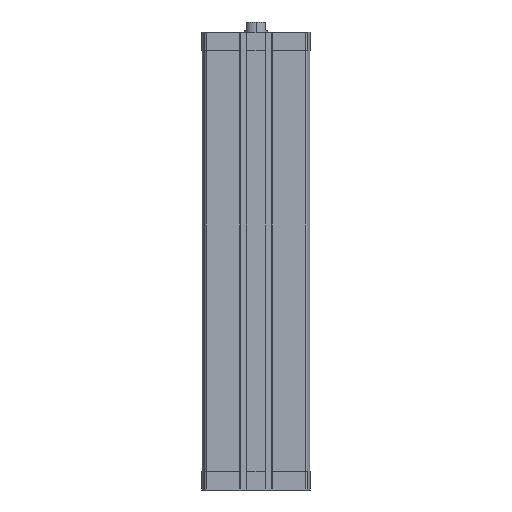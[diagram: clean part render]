
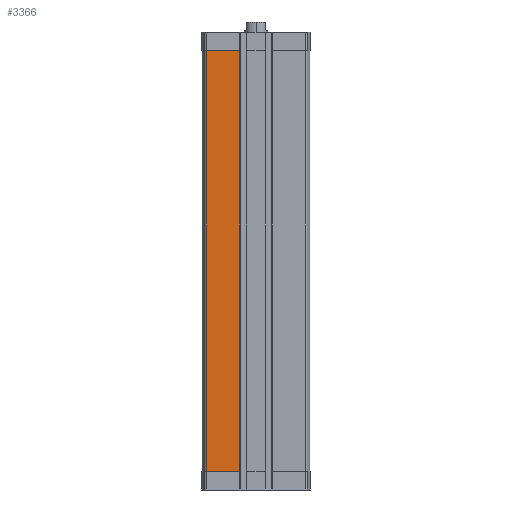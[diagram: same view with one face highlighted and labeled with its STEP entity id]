
A CAD part, left-side view. The second image highlights one B-rep face of the part: STEP entity #3366.
In plain terms, the highlighted planar face has unit normal (-1, 0, 0).
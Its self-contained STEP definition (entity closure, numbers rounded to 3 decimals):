
#73 = VERTEX_POINT ( 'NONE', #8023 ) ;
#1018 = CARTESIAN_POINT ( 'NONE',  ( -47.5, 43.743, -387.5 ) ) ;
#1033 = DIRECTION ( 'NONE',  ( 0., 0., 1. ) ) ;
#1365 = EDGE_CURVE ( 'NONE', #73, #14516, #4497, .T. ) ;
#1908 = DIRECTION ( 'NONE',  ( 0., -1., 0. ) ) ;
#2863 = VERTEX_POINT ( 'NONE', #14275 ) ;
#3306 = ORIENTED_EDGE ( 'NONE', *, *, #6105, .T. ) ;
#3366 = ADVANCED_FACE ( 'NONE', ( #13036 ), #14917, .T. ) ;
#4334 = CARTESIAN_POINT ( 'NONE',  ( -47.5, 0., -16.5 ) ) ;
#4497 = LINE ( 'NONE', #6935, #10857 ) ;
#4766 = EDGE_CURVE ( 'NONE', #10416, #2863, #7836, .T. ) ;
#6041 = EDGE_CURVE ( 'NONE', #2863, #73, #15018, .T. ) ;
#6105 = EDGE_CURVE ( 'NONE', #14516, #10416, #14476, .T. ) ;
#6935 = CARTESIAN_POINT ( 'NONE',  ( -47.5, 14.3, -387.5 ) ) ;
#7807 = VECTOR ( 'NONE', #13780, 1000. ) ;
#7836 = LINE ( 'NONE', #13690, #7807 ) ;
#7985 = ORIENTED_EDGE ( 'NONE', *, *, #4766, .T. ) ;
#7999 = DIRECTION ( 'NONE',  ( -1., 0., 0. ) ) ;
#8023 = CARTESIAN_POINT ( 'NONE',  ( -47.5, 14.3, -387.5 ) ) ;
#8265 = DIRECTION ( 'NONE',  ( 0., 1., 0. ) ) ;
#8606 = CARTESIAN_POINT ( 'NONE',  ( -47.5, 14.3, -16.5 ) ) ;
#8672 = ORIENTED_EDGE ( 'NONE', *, *, #6041, .T. ) ;
#9237 = ORIENTED_EDGE ( 'NONE', *, *, #1365, .T. ) ;
#9391 = CARTESIAN_POINT ( 'NONE',  ( -47.5, 43.743, -16.5 ) ) ;
#10416 = VERTEX_POINT ( 'NONE', #9391 ) ;
#10857 = VECTOR ( 'NONE', #1033, 1000. ) ;
#11395 = EDGE_LOOP ( 'NONE', ( #8672, #9237, #3306, #7985 ) ) ;
#11605 = CARTESIAN_POINT ( 'NONE',  ( -47.5, 43.743, -387.5 ) ) ;
#12059 = AXIS2_PLACEMENT_3D ( 'NONE', #11605, #7999, #13914 ) ;
#13036 = FACE_OUTER_BOUND ( 'NONE', #11395, .T. ) ;
#13690 = CARTESIAN_POINT ( 'NONE',  ( -47.5, 43.743, -387.5 ) ) ;
#13780 = DIRECTION ( 'NONE',  ( 0., 0., -1. ) ) ;
#13914 = DIRECTION ( 'NONE',  ( 0., 0., 1. ) ) ;
#14275 = CARTESIAN_POINT ( 'NONE',  ( -47.5, 43.743, -387.5 ) ) ;
#14393 = VECTOR ( 'NONE', #8265, 1000. ) ;
#14476 = LINE ( 'NONE', #4334, #14393 ) ;
#14516 = VERTEX_POINT ( 'NONE', #8606 ) ;
#14849 = VECTOR ( 'NONE', #1908, 1000. ) ;
#14917 = PLANE ( 'NONE',  #12059 ) ;
#15018 = LINE ( 'NONE', #1018, #14849 ) ;
